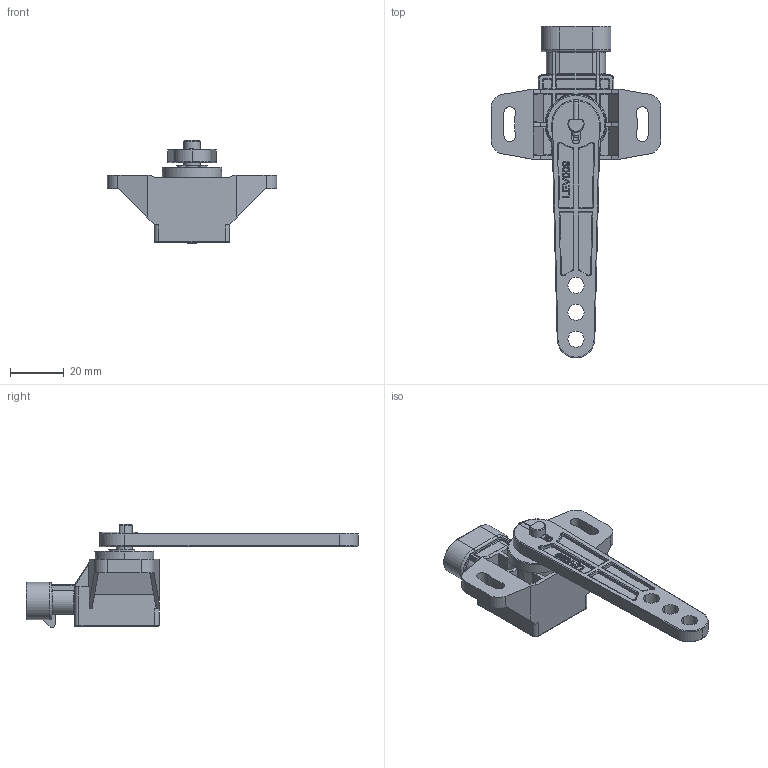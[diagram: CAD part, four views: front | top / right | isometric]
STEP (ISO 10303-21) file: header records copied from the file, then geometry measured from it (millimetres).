
FILE_DESCRIPTION (( 'STEP AP203' ), '1' );
FILE_NAME ('GR3PA S5E1HS xxx xxxx D0.STEP', '2024-12-19T15:11:07', ( '' ), ( '' ), 'SwSTEP 2.0', 'SolidWorks 2024', '' );
FILE_SCHEMA (( 'CONFIG_CONTROL_DESIGN' ));
Length unit declared in the file: millimetre
Products named in the file (1): GR3PA S5E1HS xxx xxxx D0
Bounding box: 63 x 123.5 x 38.47 mm (x, y, z)
Volume: 30913.7 mm3; surface area: 17919.5 mm2
Topology: 9 solids, 9 shells, 787 faces, 1941 edges, 1171 vertices
Faces by surface type: plane 295, cylinder 268, bspline 81, torus 70, sphere 40, cone 33
Entity records: 27763 total; most frequent: CARTESIAN_POINT 9642, ORIENTED_EDGE 3810, DIRECTION 3700, EDGE_CURVE 1905, AXIS2_PLACEMENT_3D 1356, VERTEX_POINT 1171, LINE 988, VECTOR 988
